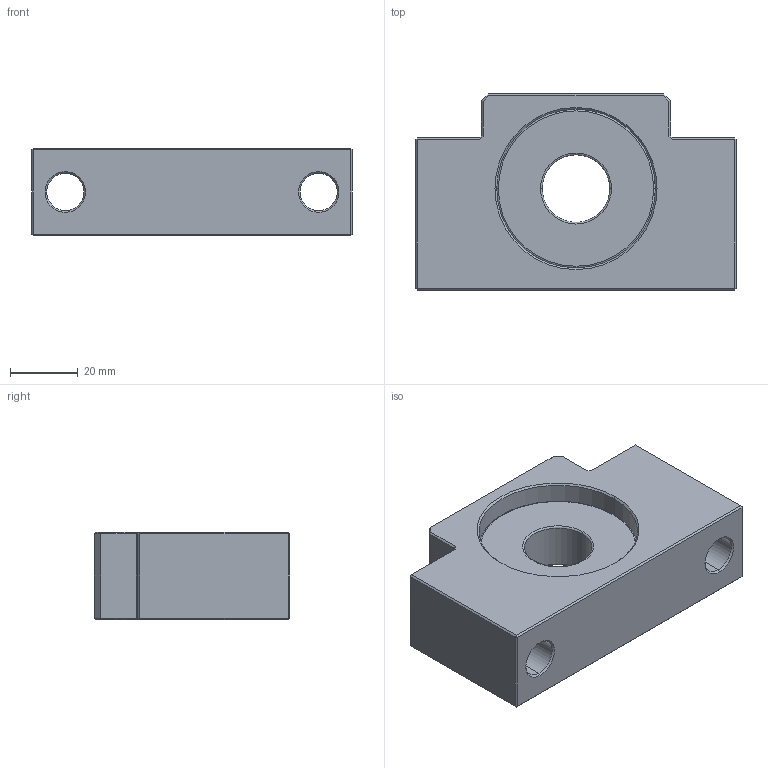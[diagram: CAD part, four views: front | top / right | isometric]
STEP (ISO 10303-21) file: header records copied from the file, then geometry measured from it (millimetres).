
FILE_DESCRIPTION (( 'STEP AP203' ), '1' );
FILE_NAME ('ASGF-20_203.STEP', '2013-02-26T00:37:36', ( '' ), ( '' ), 'SwSTEP 2.0', 'SolidWorks 2012', '' );
FILE_SCHEMA (( 'CONFIG_CONTROL_DESIGN' ));
Length unit declared in the file: millimetre
Products named in the file (1): ASGF-20_203
Bounding box: 95 x 58 x 26 mm (x, y, z)
Volume: 92081.3 mm3; surface area: 23057.4 mm2
Topology: 1 solids, 1 shells, 88 faces, 190 edges, 106 vertices
Faces by surface type: plane 54, cylinder 14, cone 12, torus 8
Entity records: 2405 total; most frequent: DIRECTION 426, CARTESIAN_POINT 385, ORIENTED_EDGE 380, EDGE_CURVE 190, AXIS2_PLACEMENT_3D 147, LINE 132, VECTOR 132, VERTEX_POINT 106
